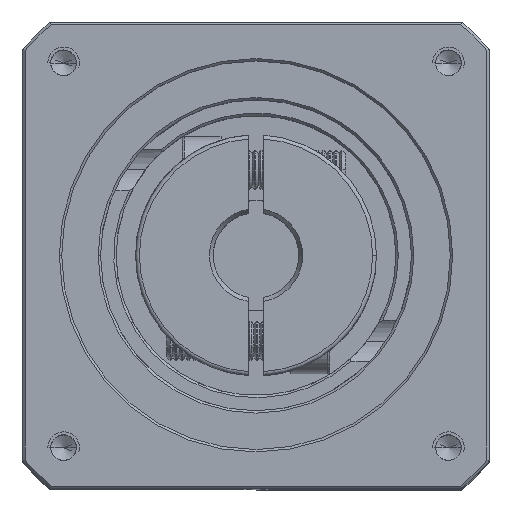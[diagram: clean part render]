
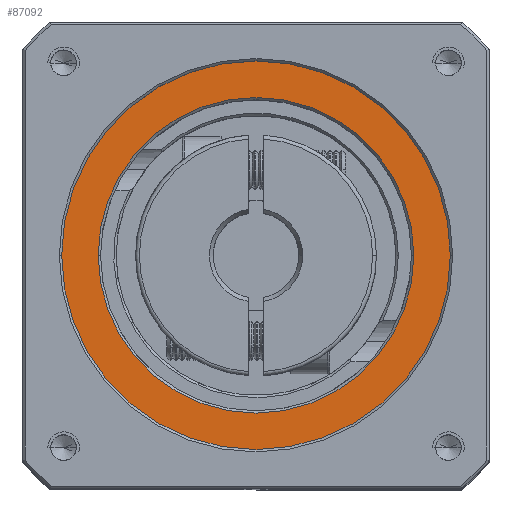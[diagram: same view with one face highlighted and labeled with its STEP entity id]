
A CAD part, top view. The second image highlights one B-rep face of the part: STEP entity #87092.
In plain terms, the highlighted planar face has unit normal (0, 0, 1).
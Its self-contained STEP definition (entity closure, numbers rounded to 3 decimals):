
#4357 = CARTESIAN_POINT ( 'NONE',  ( -47.069, 33.271, -4.382 ) ) ;
#4912 = AXIS2_PLACEMENT_3D ( 'NONE', #13327, #61554, #93800 ) ;
#7481 = EDGE_CURVE ( 'NONE', #10782, #30256, #38156, .T. ) ;
#7895 = CARTESIAN_POINT ( 'NONE',  ( -47.069, 33.271, -4.382 ) ) ;
#8101 = EDGE_CURVE ( 'NONE', #25570, #77709, #87993, .T. ) ;
#9141 = CARTESIAN_POINT ( 'NONE',  ( -72.069, 33.271, -4.382 ) ) ;
#10782 = VERTEX_POINT ( 'NONE', #86565 ) ;
#12150 = CARTESIAN_POINT ( 'NONE',  ( -67.369, 33.271, -4.382 ) ) ;
#12424 = DIRECTION ( 'NONE',  ( 0., 0., -1. ) ) ;
#13327 = CARTESIAN_POINT ( 'NONE',  ( -47.069, 33.271, -4.382 ) ) ;
#13906 = CARTESIAN_POINT ( 'NONE',  ( -47.069, 33.271, -4.382 ) ) ;
#18508 = CIRCLE ( 'NONE', #64878, 25. ) ;
#19536 = ORIENTED_EDGE ( 'NONE', *, *, #59512, .T. ) ;
#22281 = ORIENTED_EDGE ( 'NONE', *, *, #7481, .T. ) ;
#24019 = ORIENTED_EDGE ( 'NONE', *, *, #33058, .T. ) ;
#25570 = VERTEX_POINT ( 'NONE', #96532 ) ;
#26731 = CIRCLE ( 'NONE', #66107, 20.3 ) ;
#30256 = VERTEX_POINT ( 'NONE', #9141 ) ;
#33058 = EDGE_CURVE ( 'NONE', #77709, #25570, #26731, .T. ) ;
#37511 = ORIENTED_EDGE ( 'NONE', *, *, #8101, .T. ) ;
#38156 = CIRCLE ( 'NONE', #4912, 25. ) ;
#40750 = DIRECTION ( 'NONE',  ( 1., 0., 0. ) ) ;
#44749 = DIRECTION ( 'NONE',  ( 0., 0., -1. ) ) ;
#47361 = AXIS2_PLACEMENT_3D ( 'NONE', #49150, #80671, #40750 ) ;
#47823 = AXIS2_PLACEMENT_3D ( 'NONE', #13906, #44749, #68824 ) ;
#48479 = DIRECTION ( 'NONE',  ( 1., 0., 0. ) ) ;
#49150 = CARTESIAN_POINT ( 'NONE',  ( -47.069, 33.271, -4.382 ) ) ;
#56506 = EDGE_LOOP ( 'NONE', ( #22281, #19536 ) ) ;
#56889 = PLANE ( 'NONE',  #47361 ) ;
#59512 = EDGE_CURVE ( 'NONE', #30256, #10782, #18508, .T. ) ;
#61554 = DIRECTION ( 'NONE',  ( 0., 0., 1. ) ) ;
#64878 = AXIS2_PLACEMENT_3D ( 'NONE', #7895, #72310, #48479 ) ;
#66107 = AXIS2_PLACEMENT_3D ( 'NONE', #4357, #12424, #101230 ) ;
#68824 = DIRECTION ( 'NONE',  ( 1., 0., 0. ) ) ;
#72310 = DIRECTION ( 'NONE',  ( 0., 0., 1. ) ) ;
#75722 = FACE_BOUND ( 'NONE', #100233, .T. ) ;
#77044 = FACE_OUTER_BOUND ( 'NONE', #56506, .T. ) ;
#77709 = VERTEX_POINT ( 'NONE', #12150 ) ;
#80671 = DIRECTION ( 'NONE',  ( 0., 0., 1. ) ) ;
#86565 = CARTESIAN_POINT ( 'NONE',  ( -22.069, 33.271, -4.382 ) ) ;
#87092 = ADVANCED_FACE ( 'NONE', ( #75722, #77044 ), #56889, .T. ) ;
#87993 = CIRCLE ( 'NONE', #47823, 20.3 ) ;
#93800 = DIRECTION ( 'NONE',  ( 1., 0., 0. ) ) ;
#96532 = CARTESIAN_POINT ( 'NONE',  ( -26.769, 33.271, -4.382 ) ) ;
#100233 = EDGE_LOOP ( 'NONE', ( #37511, #24019 ) ) ;
#101230 = DIRECTION ( 'NONE',  ( 1., 0., 0. ) ) ;
